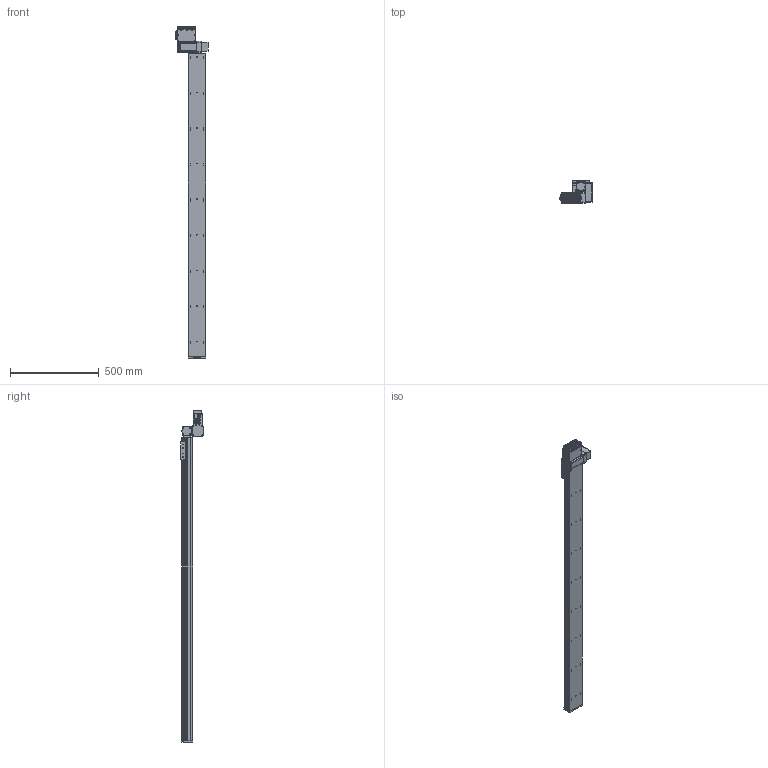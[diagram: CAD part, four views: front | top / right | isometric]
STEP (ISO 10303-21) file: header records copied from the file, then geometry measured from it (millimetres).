
FILE_DESCRIPTION (( 'STEP AP203' ), '1' );
FILE_NAME ('S10 TBH LH S1700.STEP', '2012-06-18T15:48:34', ( 'Conseil Régional Haute-Normandie' ), ( 'Conseil Régional Haute-Normandie' ), 'SwSTEP 2.0', 'SolidWorks 2010', '' );
FILE_SCHEMA (( 'CONFIG_CONTROL_DESIGN' ));
Length unit declared in the file: millimetre
Products named in the file (30): Plaque racord_Default; plaque de bout s10_Default; Colonnette_3; renvoi LH_Default; BU45 Carte d''axe A11_5; Moteur 60BLDC90A_3; Colonnette ronde_3; Sub D 9cts 90_X2_00B_X0__3; Radiateur profil_X2_00E9_X0_ 100x25_3; vis M5 L12_Default; vis M5 L5_Default; S10 TBH LH S1700; cache t皻e axe_Default; cache t皻e_Default; embout; palette tbn; Assem1_7; T_X2_00F4_X0_le contre le moteur_5; BU41 Carte Alimentation P05_3; Couvercle_3; T_X2_00F4_X0_le fond_3; Connecteur rond D10 3cts_5; Connecteur rond D12 4cts_5; T_X2_00F4_X0_le Arri_X2_00E8_X0_re_5; T_X2_00F4_X0_le lat_X2_00E9_X0_rale_5; Vis TF 3 torkx_1_1; Cvis M5 L30_Default; Vis TF 3 torkx; axe1700; axe 1700
Assembly tree (66 placements, depth 3):
  S10 TBH LH S1700
    vis M5 L5_Default  x4
    renvoi LH_Default
    Plaque racord_Default
    cache t皻e_Default  x2
    Vis TF 3 torkx  x7
    palette tbn
    axe1700
      axe 1700
    Cvis M5 L30_Default  x2
    vis M5 L12_Default  x4
    plaque de bout s10_Default
    embout
    cache t皻e axe_Default
    Assem1_7
      Vis TF 3 torkx_1_1  x21
      Colonnette ronde_3
      Colonnette_3  x2
      Connecteur rond D12 4cts_5
      Connecteur rond D10 3cts_5  x2
      Sub D 9cts 90_X2_00B_X0__3
      Radiateur profil_X2_00E9_X0_ 100x25_3
      T_X2_00F4_X0_le Arri_X2_00E8_X0_re_5
      T_X2_00F4_X0_le lat_X2_00E9_X0_rale_5  x2
      BU41 Carte Alimentation P05_3
      Couvercle_3
      BU45 Carte d''axe A11_5
      Moteur 60BLDC90A_3
      T_X2_00F4_X0_le fond_3
      T_X2_00F4_X0_le contre le moteur_5
Bounding box: 189.8 x 124.75 x 1866.5 mm (x, y, z)
Volume: 9675574.5 mm3; surface area: 1123825.5 mm2
Topology: 64 solids, 64 shells, 2441 faces, 6095 edges, 3943 vertices
Faces by surface type: plane 1153, cylinder 1065, cone 188, bspline 32, torus 3
Entity records: 49131 total; most frequent: CARTESIAN_POINT 8790, DIRECTION 7942, ORIENTED_EDGE 7194, EDGE_CURVE 3597, AXIS2_PLACEMENT_3D 2956, VERTEX_POINT 2349, LINE 2030, VECTOR 2030
